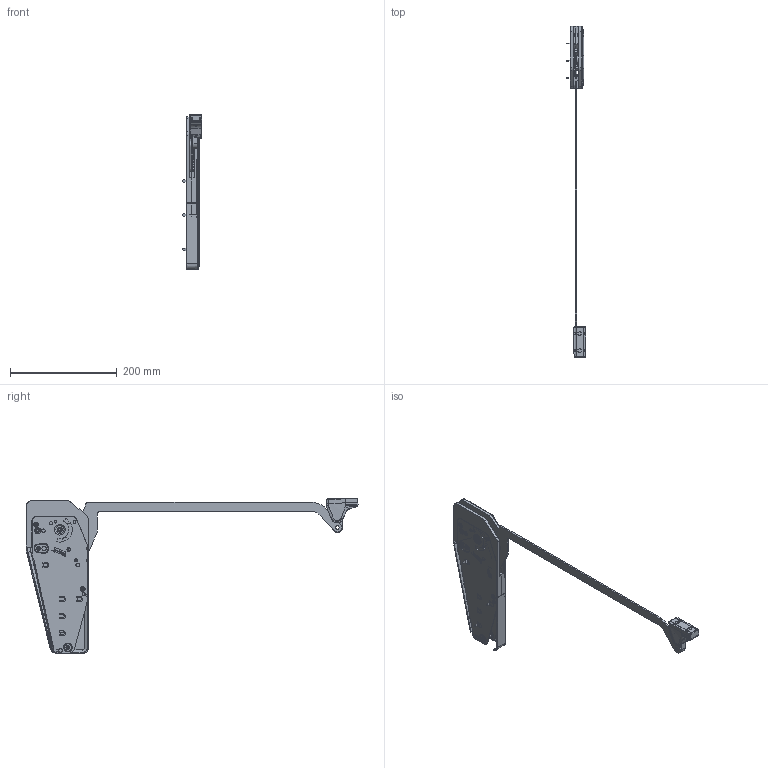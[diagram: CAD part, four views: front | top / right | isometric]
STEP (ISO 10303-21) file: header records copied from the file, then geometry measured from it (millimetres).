
FILE_DESCRIPTION((''),'2;1');
FILE_NAME('FLB_LINKS_480_530_GESCHLOSSEN_ASM','2014-02-06T',('7ke10'),('RAND'),'PRO/ENGINEER BY PARAMETRIC TECHNOLOGY CORPORATION, 2011490','PRO/ENGINEER BY PARAMETRIC TECHNOLOGY CORPORATION, 2011490','');
FILE_SCHEMA(('AUTOMOTIVE_DESIGN_CC2 { 1 2 10303 214 -1 1 5 2 }'));
Products named in the file (25): 582728; 582729; 150693; 150694; 150699; 150700; 582731_ASM; 582650; 233597; 150776; 582467_ASM; 150697; 150698; MZ-121042-00; 150783; 582667; 150777; 582687_ASM; 582668; 582669; 150779; 150780; 582683_ASM; 582685_ASM; FLB_LINKS_480_530_GESCHLOSSEN_ASM
Assembly tree (29 placements, depth 4):
  FLB_LINKS_480_530_GESCHLOSSEN_ASM
    582731_ASM
      582728
      582729
      150693
      150694
      150699
      150700  x2
    582467_ASM
      582650
      233597
      150776
    150697
    150699
    150698
    MZ-121042-00  x3
    150783
    582685_ASM
      582687_ASM
        582667
        150777  x2
      582683_ASM
        582668
        582669
        150779
        150780
Bounding box: 37.06 x 621.05 x 289.93 mm (x, y, z)
Volume: 305880.1 mm3; surface area: 269903.2 mm2
Topology: 24 solids, 28 shells, 2640 faces, 6870 edges, 4375 vertices
Faces by surface type: plane 1111, cylinder 858, bspline 378, cone 137, torus 124, extrusion 16, sphere 16
Entity records: 119738 total; most frequent: CARTESIAN_POINT 37683, ORIENTED_EDGE 13336, DIRECTION 12045, EDGE_CURVE 6668, PRESENTATION_STYLE_ASSIGNMENT 6599, STYLED_ITEM 6599, CURVE_STYLE 6582, VERTEX_POINT 4248
